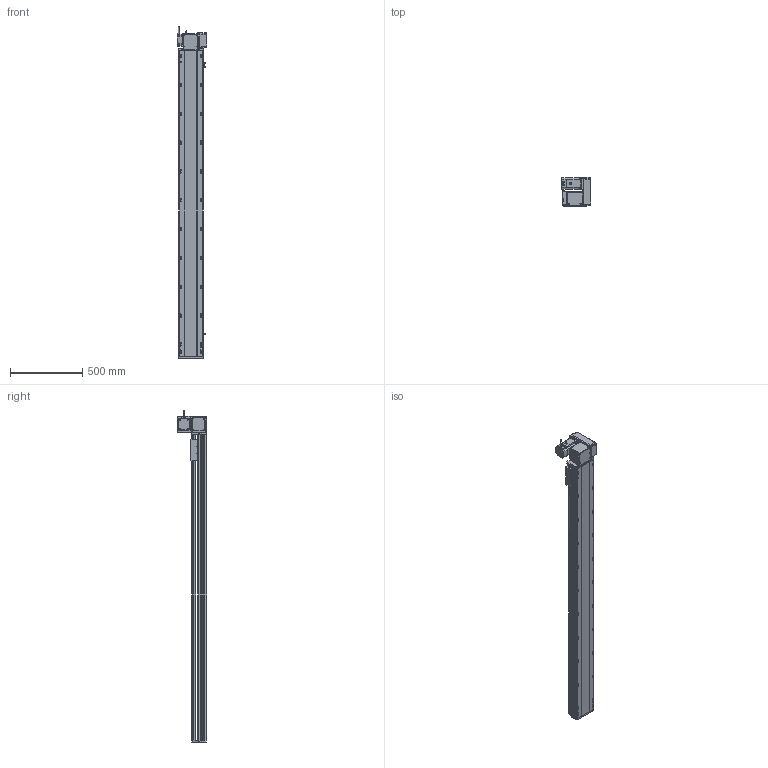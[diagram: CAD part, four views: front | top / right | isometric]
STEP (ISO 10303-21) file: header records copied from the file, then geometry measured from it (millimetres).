
FILE_DESCRIPTION (( 'STEP AP214' ), '1' );
FILE_NAME ('RTB17S-XX-1850-RW-M75-C4.STEP', '2025-12-12T02:41:18', ( '' ), ( '' ), 'SwSTEP 2.0', 'SolidWorks 2018', '' );
FILE_SCHEMA (( 'AUTOMOTIVE_DESIGN' ));
Length unit declared in the file: millimetre
Products named in the file (15): 750W萇儂^RTB17S-XX-XX-RW-M75-C4; RTB22S-GY-008-M75--萇儂啣^RTB17S-RW-々湍釱蚾饜-750W_RTB17S-XX-XX-RW-M75-C4; RTB17S-L-007奻裔^RTB17S-XX-XX-RW-M75-C4; RTB17-R-011菁釱^RTB17S-XX-XX-RW-M75-C4; RTB17S-賑釱^RTB17S-XX-XX-RW-M75-C4; RTB22S-GY-017P^RTB17S-RW-々湍釱蚾饜-750W_RTB17S-XX-XX-RW-M75-C4; RTB17S-XX-1850-RW-M75-C4; RTB17S-L-001-耜醱啣^RTB17S-XX-XX-RW-M75-C4; RTB22S-GY-005P^RTB17S-RW-々湍釱蚾饜-750W_RTB17S-XX-XX-RW-M75-C4; RTH13-BL-012覜茼え俋离^RTB17S-賑釱_RTB17S-XX-XX-RW-M75-C4; EE672^RTB17S-XX-XX-RW-M75-C4; RMP17S-L-014-T20-P75--々湍釱^RTB17S-RW-々湍釱蚾饜-750W_RTB17S-XX-XX-RW-M75-C4; RTB22S-GY-018P^RTB17S-RW-々湍釱蚾饜-750W_RTB17S-XX-XX-RW-M75-C4; RTB17S-L-004-賑釱^RTB17S-賑釱_RTB17S-XX-XX-RW-M75-C4; RTB17S-RW-々湍釱蚾饜-750W^RTB17S-XX-XX-RW-M75-C4
Assembly tree (17 placements, depth 3):
  RTB17S-XX-1850-RW-M75-C4
    RTB17-R-011菁釱^RTB17S-XX-XX-RW-M75-C4
    EE672^RTB17S-XX-XX-RW-M75-C4  x3
    RTB17S-L-001-耜醱啣^RTB17S-XX-XX-RW-M75-C4
    RTB17S-賑釱^RTB17S-XX-XX-RW-M75-C4
      RTB17S-L-004-賑釱^RTB17S-賑釱_RTB17S-XX-XX-RW-M75-C4
      RTH13-BL-012覜茼え俋离^RTB17S-賑釱_RTB17S-XX-XX-RW-M75-C4
    RTB17S-L-007奻裔^RTB17S-XX-XX-RW-M75-C4
    750W萇儂^RTB17S-XX-XX-RW-M75-C4
    RTB17S-RW-々湍釱蚾饜-750W^RTB17S-XX-XX-RW-M75-C4
      RMP17S-L-014-T20-P75--々湍釱^RTB17S-RW-々湍釱蚾饜-750W_RTB17S-XX-XX-RW-M75-C4
      RTB22S-GY-005P^RTB17S-RW-々湍釱蚾饜-750W_RTB17S-XX-XX-RW-M75-C4
      RTB22S-GY-017P^RTB17S-RW-々湍釱蚾饜-750W_RTB17S-XX-XX-RW-M75-C4  x2
      RTB22S-GY-008-M75--萇儂啣^RTB17S-RW-々湍釱蚾饜-750W_RTB17S-XX-XX-RW-M75-C4
      RTB22S-GY-018P^RTB17S-RW-々湍釱蚾饜-750W_RTB17S-XX-XX-RW-M75-C4
Bounding box: 207.4 x 201.5 x 2302.2 mm (x, y, z)
Volume: 17509381.9 mm3; surface area: 3116797.5 mm2
Topology: 17 solids, 17 shells, 2169 faces, 6052 edges, 3914 vertices
Faces by surface type: plane 980, cylinder 773, bspline 294, cone 110, sphere 8, torus 4
Entity records: 61942 total; most frequent: CARTESIAN_POINT 18316, ORIENTED_EDGE 8948, DIRECTION 8312, EDGE_CURVE 4474, AXIS2_PLACEMENT_3D 2934, VERTEX_POINT 2918, VECTOR 2444, LINE 2444
